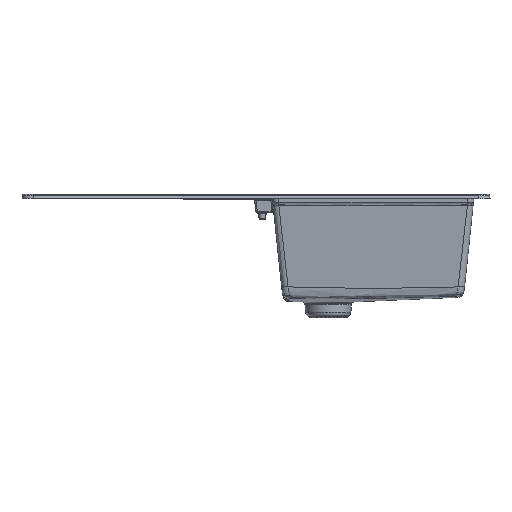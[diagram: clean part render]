
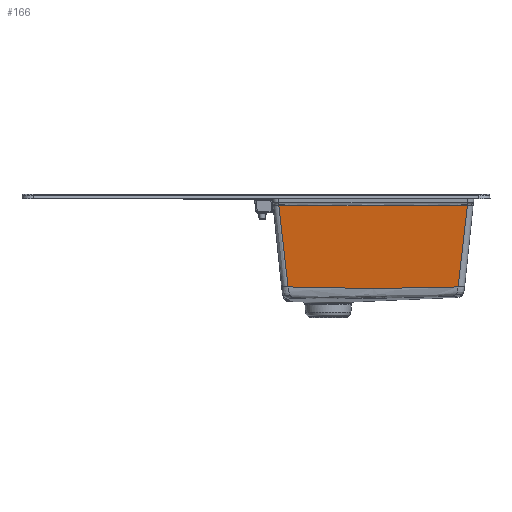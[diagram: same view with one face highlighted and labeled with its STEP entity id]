
A CAD part, front view. The second image highlights one B-rep face of the part: STEP entity #166.
In plain terms, the highlighted planar face has unit normal (0, 0.995, 0.104).
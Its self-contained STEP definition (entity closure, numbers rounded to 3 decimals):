
#166=ADVANCED_FACE('',(#635),#8039,.T.);
#635=FACE_OUTER_BOUND('',#1104,.T.);
#1104=EDGE_LOOP('',(#1898,#1899,#1900,#1901));
#1898=ORIENTED_EDGE('',*,*,#4347,.F.);
#1899=ORIENTED_EDGE('',*,*,#4346,.F.);
#1900=ORIENTED_EDGE('',*,*,#4345,.F.);
#1901=ORIENTED_EDGE('',*,*,#4344,.T.);
#4344=EDGE_CURVE('',#6930,#6932,#5940,.T.);
#4345=EDGE_CURVE('',#6930,#6933,#5941,.T.);
#4346=EDGE_CURVE('',#6933,#6934,#5942,.T.);
#4347=EDGE_CURVE('',#6934,#6932,#5943,.T.);
#5940=B_SPLINE_CURVE_WITH_KNOTS('',1,(#29044,#29045),.UNSPECIFIED.,.F.,
 .F.,(2,2),(0.,346.626),.UNSPECIFIED.);
#5941=B_SPLINE_CURVE_WITH_KNOTS('',3,(#29046,#29047,#29048,#29049),
 .UNSPECIFIED.,.F.,.F.,(4,4),(0.,1.),.UNSPECIFIED.);
#5942=B_SPLINE_CURVE_WITH_KNOTS('',3,(#29050,#29051,#29052,#29053,#29054,
#29055,#29056,#29057,#29058,#29059,#29060),.UNSPECIFIED.,.F.,.F.,(4,1,1,
1,1,1,1,1,4),(0.,0.125,0.25,0.375,0.5,0.625,0.75,0.875,1.),
 .UNSPECIFIED.);
#5943=B_SPLINE_CURVE_WITH_KNOTS('',3,(#29061,#29062,#29063,#29064),
 .UNSPECIFIED.,.F.,.F.,(4,4),(0.,1.),.UNSPECIFIED.);
#6930=VERTEX_POINT('',#27879);
#6932=VERTEX_POINT('',#27881);
#6933=VERTEX_POINT('',#27882);
#6934=VERTEX_POINT('',#27883);
#8039=PLANE('',#8101);
#8101=AXIS2_PLACEMENT_3D('',#10831,#8147,$);
#8147=DIRECTION('',(0.,0.995,0.105));
#10831=CARTESIAN_POINT('',(27.078,-257.659,-187.761));
#27879=CARTESIAN_POINT('',(61.847,-275.292,-20.));
#27881=CARTESIAN_POINT('',(408.472,-275.292,-20.));
#27882=CARTESIAN_POINT('',(78.905,-259.592,-169.384));
#27883=CARTESIAN_POINT('',(391.415,-259.592,-169.384));
#29044=CARTESIAN_POINT('',(61.847,-275.292,-20.));
#29045=CARTESIAN_POINT('',(408.472,-275.292,-20.));
#29046=CARTESIAN_POINT('',(61.847,-275.292,-20.));
#29047=CARTESIAN_POINT('',(67.533,-270.059,-69.795));
#29048=CARTESIAN_POINT('',(73.219,-264.825,-119.589));
#29049=CARTESIAN_POINT('',(78.905,-259.592,-169.384));
#29050=CARTESIAN_POINT('',(78.905,-259.592,-169.384));
#29051=CARTESIAN_POINT('',(91.919,-259.538,-169.896));
#29052=CARTESIAN_POINT('',(117.952,-259.441,-170.815));
#29053=CARTESIAN_POINT('',(157.015,-259.343,-171.752));
#29054=CARTESIAN_POINT('',(196.086,-259.291,-172.241));
#29055=CARTESIAN_POINT('',(235.16,-259.274,-172.404));
#29056=CARTESIAN_POINT('',(274.234,-259.291,-172.241));
#29057=CARTESIAN_POINT('',(313.304,-259.343,-171.752));
#29058=CARTESIAN_POINT('',(352.367,-259.441,-170.815));
#29059=CARTESIAN_POINT('',(378.401,-259.538,-169.896));
#29060=CARTESIAN_POINT('',(391.415,-259.592,-169.384));
#29061=CARTESIAN_POINT('',(391.415,-259.592,-169.384));
#29062=CARTESIAN_POINT('',(397.101,-264.825,-119.589));
#29063=CARTESIAN_POINT('',(402.787,-270.059,-69.795));
#29064=CARTESIAN_POINT('',(408.472,-275.292,-20.));
